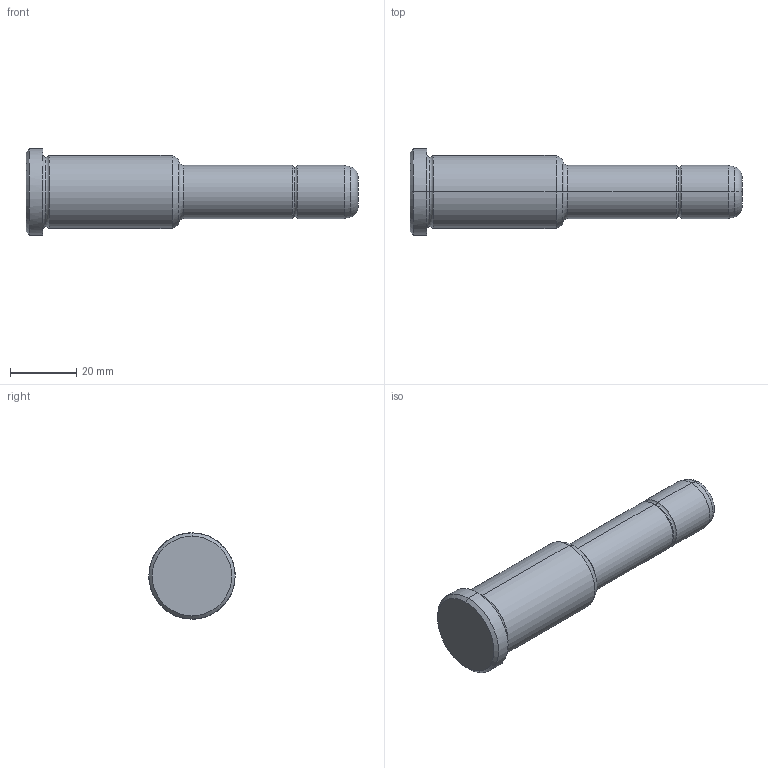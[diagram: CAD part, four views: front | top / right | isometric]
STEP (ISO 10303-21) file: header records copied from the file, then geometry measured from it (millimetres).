
FILE_DESCRIPTION(('CATIA V5 STEP Exchange'),'2;1');
FILE_NAME('C:\Users\Utente\Desktop\IO LAVORO\3D X SITO CF\X SITO\PLASTICA\351\351-16X46X100.stp','2021-08-18T11:23:24+00:00',('none'),('none'),'CATIA Version 5 Release 20 GA (IN-10)','CATIA V5 STEP AP203','none');
FILE_SCHEMA(('CONFIG_CONTROL_DESIGN'));
Length unit declared in the file: millimetre
Products named in the file (1): 351-16X46X100
Bounding box: 100 x 26 x 26 mm (x, y, z)
Volume: 28785.9 mm3; surface area: 6821.5 mm2
Topology: 1 solids, 1 shells, 30 faces, 86 edges, 60 vertices
Faces by surface type: torus 12, cylinder 8, cone 6, plane 4
Entity records: 1112 total; most frequent: CARTESIAN_POINT 289, ORIENTED_EDGE 172, DIRECTION 138, AXIS2_PLACEMENT_3D 95, EDGE_CURVE 86, CIRCLE 64, VERTEX_POINT 60, EDGE_LOOP 32
